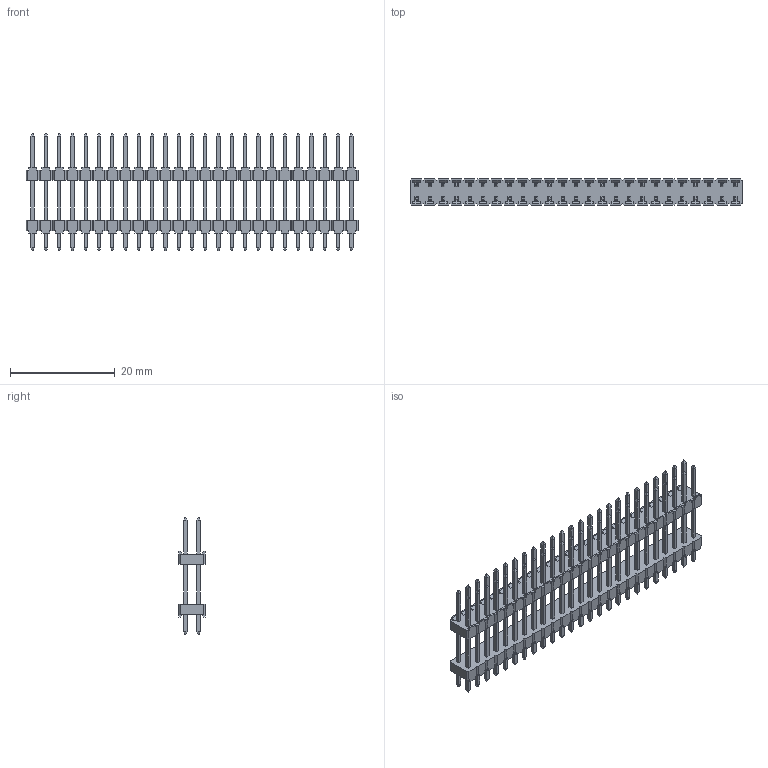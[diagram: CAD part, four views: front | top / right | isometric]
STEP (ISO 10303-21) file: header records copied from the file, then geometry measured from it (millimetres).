
FILE_DESCRIPTION(/* description */ (''),/* implementation_level */ '2;1');
FILE_NAME(/* name */ '961450-8041204-XX',/* time_stamp */ '2007-06-14T19:39:21+02:00',/* author */ (''),/* organization */ (''),/* preprocessor_version */ 'ST-DEVELOPER v9',/* originating_system */ 'UGS - NX 3.0',/* authorisation */ '');
FILE_SCHEMA (('AUTOMOTIVE_DESIGN { 1 0 10303 214 1 1 1 1 }'));
Length unit declared in the file: millimetre
Products named in the file (1): 961450-8041204-XX
Bounding box: 63.5 x 5 x 22.4 mm (x, y, z)
Volume: 1649.6 mm3; surface area: 4227 mm2
Topology: 1 solids, 1 shells, 1912 faces, 5024 edges, 3216 vertices
Faces by surface type: plane 1912
Entity records: 57328 total; most frequent: CARTESIAN_POINT 10153, ORIENTED_EDGE 10048, DIRECTION 8850, EDGE_CURVE 5024, LINE 5024, VECTOR 5024, VERTEX_POINT 3216, EDGE_LOOP 2112
